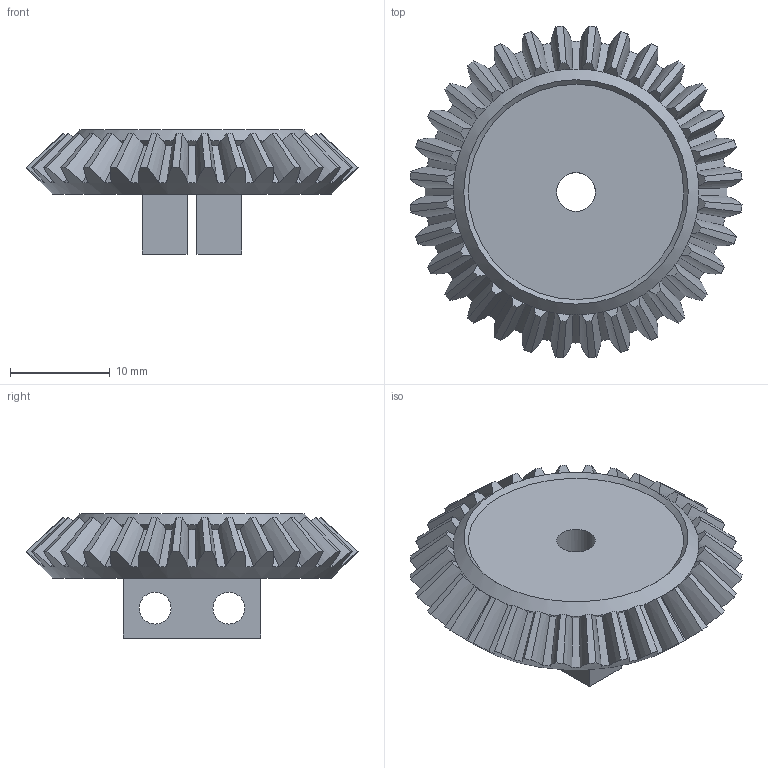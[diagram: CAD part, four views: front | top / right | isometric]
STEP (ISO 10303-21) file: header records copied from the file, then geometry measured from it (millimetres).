
FILE_DESCRIPTION(/* description */ (''),/* implementation_level */ '2;1');
FILE_NAME(/* name */ '\\192.168.3.8\kumagai\Develop\CAD\NakataOmni\DriveUnitR3\BevelGear_32_H.stp',/* time_stamp */ '2024-05-22T09:37:29+09:00',/* author */ ('kumagai'),/* organization */ (''),/* preprocessor_version */ 'ST-DEVELOPER v19',/* originating_system */ 'Autodesk Inventor 2023',/* authorisation */ '');
FILE_SCHEMA (('AUTOMOTIVE_DESIGN { 1 0 10303 214 3 1 1 }'));
Length unit declared in the file: millimetre
Products named in the file (1): かさ歯車1
Bounding box: 33.32 x 33.32 x 12.45 mm (x, y, z)
Volume: 4348.5 mm3; surface area: 2961.8 mm2
Topology: 1 solids, 1 shells, 214 faces, 571 edges, 359 vertices
Faces by surface type: cone 131, bspline 64, plane 14, cylinder 5
Full cylindrical faces by diameter (mm): 3.2 x4, 3.9 x1
Entity records: 9133 total; most frequent: CARTESIAN_POINT 4401, ORIENTED_EDGE 1142, DIRECTION 764, EDGE_CURVE 571, AXIS2_PLACEMENT_3D 362, VERTEX_POINT 359, B_SPLINE_CURVE_WITH_KNOTS 320, EDGE_LOOP 224
